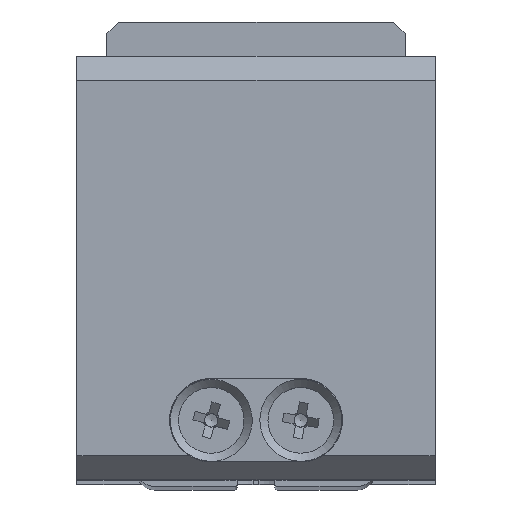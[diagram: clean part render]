
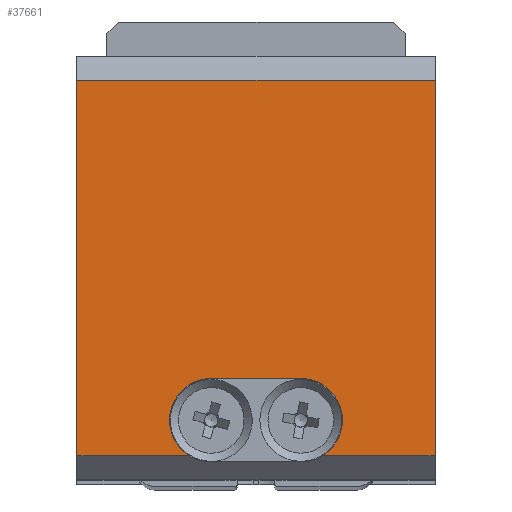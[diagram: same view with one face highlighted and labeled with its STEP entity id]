
A CAD part, top view. The second image highlights one B-rep face of the part: STEP entity #37661.
In plain terms, the highlighted planar face has unit normal (0, 0, 1).
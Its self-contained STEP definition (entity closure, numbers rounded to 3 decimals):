
#576 = CARTESIAN_POINT ( 'NONE',  ( 1.2, -3.203, 81.054 ) ) ;
#1305 = EDGE_CURVE ( 'NONE', #28068, #29866, #22475, .T. ) ;
#1571 = AXIS2_PLACEMENT_3D ( 'NONE', #11465, #35056, #34871 ) ;
#2867 = CARTESIAN_POINT ( 'NONE',  ( 12.45, 25.297, 81.054 ) ) ;
#3366 = VECTOR ( 'NONE', #23093, 1000. ) ;
#3419 = CARTESIAN_POINT ( 'NONE',  ( -17.55, -6.203, 81.054 ) ) ;
#3603 = LINE ( 'NONE', #12316, #28839 ) ;
#3721 = DIRECTION ( 'NONE',  ( 0., 1., 0. ) ) ;
#4113 = CARTESIAN_POINT ( 'NONE',  ( 12.45, -6.203, 81.054 ) ) ;
#4298 = LINE ( 'NONE', #25004, #13791 ) ;
#5175 = LINE ( 'NONE', #26078, #31457 ) ;
#5551 = DIRECTION ( 'NONE',  ( -1., 0., 0. ) ) ;
#6417 = LINE ( 'NONE', #35805, #15184 ) ;
#6671 = ORIENTED_EDGE ( 'NONE', *, *, #14914, .F. ) ;
#6771 = CARTESIAN_POINT ( 'NONE',  ( -6.3, -3.203, 81.054 ) ) ;
#6954 = CARTESIAN_POINT ( 'NONE',  ( -6.3, 0.297, 81.054 ) ) ;
#8589 = VECTOR ( 'NONE', #18593, 1000. ) ;
#8726 = EDGE_CURVE ( 'NONE', #19072, #20902, #3603, .T. ) ;
#10890 = FACE_OUTER_BOUND ( 'NONE', #36264, .T. ) ;
#11465 = CARTESIAN_POINT ( 'NONE',  ( -17.55, 27.297, 81.054 ) ) ;
#12194 = DIRECTION ( 'NONE',  ( 1., 0., 0. ) ) ;
#12316 = CARTESIAN_POINT ( 'NONE',  ( -17.55, -6.203, 81.054 ) ) ;
#13217 = AXIS2_PLACEMENT_3D ( 'NONE', #576, #21105, #12194 ) ;
#13221 = CIRCLE ( 'NONE', #16916, 3.5 ) ;
#13791 = VECTOR ( 'NONE', #3721, 1000. ) ;
#14061 = EDGE_CURVE ( 'NONE', #33437, #20902, #13221, .T. ) ;
#14752 = CARTESIAN_POINT ( 'NONE',  ( -17.55, 25.297, 81.054 ) ) ;
#14914 = EDGE_CURVE ( 'NONE', #19072, #23191, #4298, .T. ) ;
#15184 = VECTOR ( 'NONE', #20745, 1000. ) ;
#15372 = ORIENTED_EDGE ( 'NONE', *, *, #37754, .T. ) ;
#16188 = EDGE_CURVE ( 'NONE', #35998, #23191, #5175, .T. ) ;
#16708 = LINE ( 'NONE', #22718, #3366 ) ;
#16916 = AXIS2_PLACEMENT_3D ( 'NONE', #6771, #35969, #36553 ) ;
#18593 = DIRECTION ( 'NONE',  ( 1., 0., 0. ) ) ;
#19072 = VERTEX_POINT ( 'NONE', #3419 ) ;
#20152 = ORIENTED_EDGE ( 'NONE', *, *, #14061, .F. ) ;
#20745 = DIRECTION ( 'NONE',  ( 0., 1., 0. ) ) ;
#20902 = VERTEX_POINT ( 'NONE', #34045 ) ;
#21105 = DIRECTION ( 'NONE',  ( 0., 0., 1. ) ) ;
#21409 = ORIENTED_EDGE ( 'NONE', *, *, #1305, .F. ) ;
#21471 = ORIENTED_EDGE ( 'NONE', *, *, #24891, .T. ) ;
#22475 = CIRCLE ( 'NONE', #13217, 3.5 ) ;
#22718 = CARTESIAN_POINT ( 'NONE',  ( -6.3, 0.297, 81.054 ) ) ;
#22920 = ORIENTED_EDGE ( 'NONE', *, *, #31827, .F. ) ;
#23093 = DIRECTION ( 'NONE',  ( -1., 0., 0. ) ) ;
#23191 = VERTEX_POINT ( 'NONE', #14752 ) ;
#23347 = VERTEX_POINT ( 'NONE', #4113 ) ;
#24124 = DIRECTION ( 'NONE',  ( 1., 0., 0. ) ) ;
#24891 = EDGE_CURVE ( 'NONE', #28068, #23347, #33291, .T. ) ;
#25004 = CARTESIAN_POINT ( 'NONE',  ( -17.55, 27.297, 81.054 ) ) ;
#26078 = CARTESIAN_POINT ( 'NONE',  ( -17.55, 25.297, 81.054 ) ) ;
#28068 = VERTEX_POINT ( 'NONE', #35231 ) ;
#28839 = VECTOR ( 'NONE', #24124, 1000. ) ;
#29866 = VERTEX_POINT ( 'NONE', #30535 ) ;
#30535 = CARTESIAN_POINT ( 'NONE',  ( 1.2, 0.297, 81.054 ) ) ;
#31457 = VECTOR ( 'NONE', #5551, 1000. ) ;
#31827 = EDGE_CURVE ( 'NONE', #29866, #33437, #16708, .T. ) ;
#33291 = LINE ( 'NONE', #36759, #8589 ) ;
#33437 = VERTEX_POINT ( 'NONE', #6954 ) ;
#33757 = ORIENTED_EDGE ( 'NONE', *, *, #8726, .T. ) ;
#34045 = CARTESIAN_POINT ( 'NONE',  ( -8.103, -6.203, 81.054 ) ) ;
#34871 = DIRECTION ( 'NONE',  ( -1., 0., 0. ) ) ;
#35056 = DIRECTION ( 'NONE',  ( 0., 0., -1. ) ) ;
#35231 = CARTESIAN_POINT ( 'NONE',  ( 3.003, -6.203, 81.054 ) ) ;
#35805 = CARTESIAN_POINT ( 'NONE',  ( 12.45, 27.297, 81.054 ) ) ;
#35969 = DIRECTION ( 'NONE',  ( 0., 0., 1. ) ) ;
#35998 = VERTEX_POINT ( 'NONE', #2867 ) ;
#36074 = ORIENTED_EDGE ( 'NONE', *, *, #16188, .T. ) ;
#36264 = EDGE_LOOP ( 'NONE', ( #20152, #22920, #21409, #21471, #15372, #36074, #6671, #33757 ) ) ;
#36553 = DIRECTION ( 'NONE',  ( 1., 0., 0. ) ) ;
#36759 = CARTESIAN_POINT ( 'NONE',  ( -17.55, -6.203, 81.054 ) ) ;
#37661 = ADVANCED_FACE ( 'NONE', ( #10890 ), #37950, .F. ) ;
#37754 = EDGE_CURVE ( 'NONE', #23347, #35998, #6417, .T. ) ;
#37950 = PLANE ( 'NONE',  #1571 ) ;
